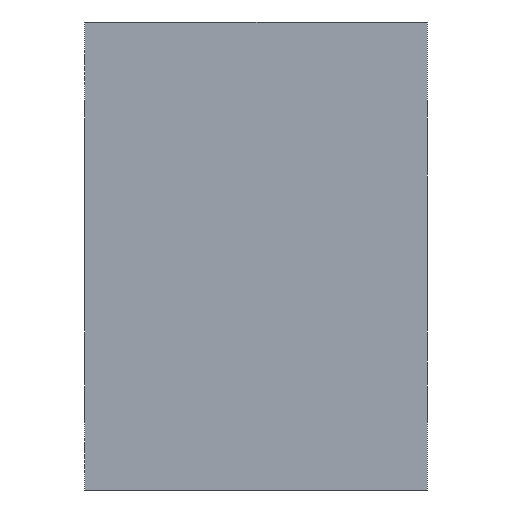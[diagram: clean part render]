
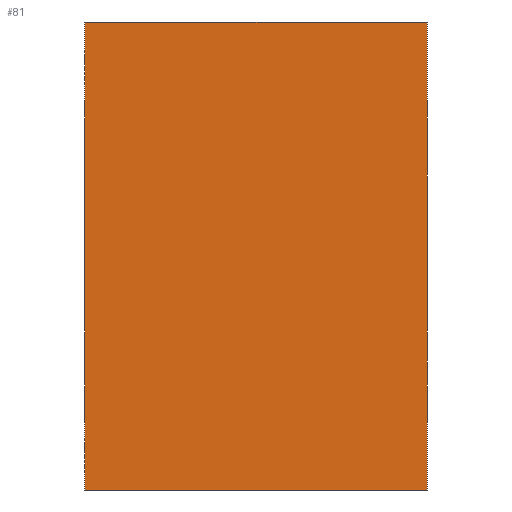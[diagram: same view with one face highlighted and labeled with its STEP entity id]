
A CAD part, left-side view. The second image highlights one B-rep face of the part: STEP entity #81.
In plain terms, the highlighted planar face has unit normal (-1, 0, 0).
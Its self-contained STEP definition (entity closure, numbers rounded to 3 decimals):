
#76=FACE_OUTER_BOUND('',#301,.T.);
#81=ADVANCED_FACE('',(#76),#132,.T.);
#132=PLANE('',#717);
#152=LINE('',#1037,#164);
#153=LINE('',#1049,#165);
#157=LINE('',#1067,#169);
#159=LINE('',#1071,#171);
#164=VECTOR('',#817,1.);
#165=VECTOR('',#830,1.);
#169=VECTOR('',#846,1.);
#171=VECTOR('',#850,1.);
#301=EDGE_LOOP('',(#416,#417,#418,#419));
#416=ORIENTED_EDGE('',*,*,#600,.T.);
#417=ORIENTED_EDGE('',*,*,#585,.T.);
#418=ORIENTED_EDGE('',*,*,#591,.F.);
#419=ORIENTED_EDGE('',*,*,#602,.T.);
#519=VERTEX_POINT('',#1032);
#521=VERTEX_POINT('',#1036);
#527=VERTEX_POINT('',#1050);
#535=VERTEX_POINT('',#1068);
#585=EDGE_CURVE('',#519,#521,#152,.T.);
#591=EDGE_CURVE('',#527,#521,#153,.T.);
#600=EDGE_CURVE('',#535,#519,#157,.T.);
#602=EDGE_CURVE('',#527,#535,#159,.T.);
#717=AXIS2_PLACEMENT_3D('',#1072,#851,#852);
#817=DIRECTION('',(0.,1.,0.));
#830=DIRECTION('',(0.,0.,1.));
#846=DIRECTION('',(0.,0.,1.));
#850=DIRECTION('',(0.,-1.,0.));
#851=DIRECTION('',(-1.,0.,0.));
#852=DIRECTION('',(0.,0.,1.));
#1032=CARTESIAN_POINT('',(-52.5,-41.,0.));
#1036=CARTESIAN_POINT('',(-52.5,41.,0.));
#1037=CARTESIAN_POINT('',(-52.5,0.,0.));
#1049=CARTESIAN_POINT('',(-52.5,41.,-60.));
#1050=CARTESIAN_POINT('',(-52.5,41.,-60.));
#1067=CARTESIAN_POINT('',(-52.5,-41.,-60.));
#1068=CARTESIAN_POINT('',(-52.5,-41.,-60.));
#1071=CARTESIAN_POINT('',(-52.5,0.,-60.));
#1072=CARTESIAN_POINT('',(-52.5,0.,-60.));
